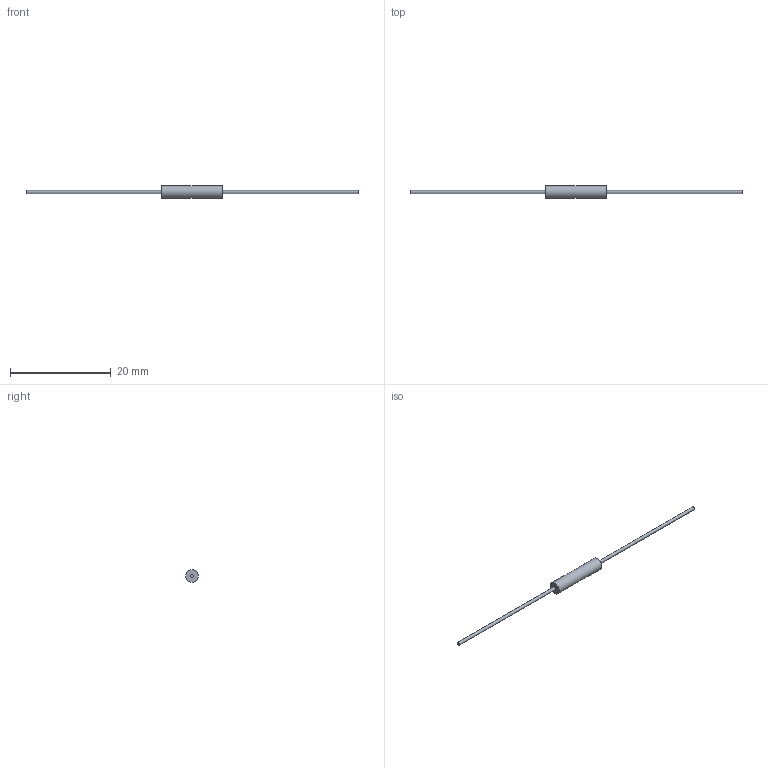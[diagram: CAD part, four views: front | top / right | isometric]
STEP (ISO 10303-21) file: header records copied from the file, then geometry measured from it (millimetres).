
FILE_DESCRIPTION(/* description */ (''),/* implementation_level */ '2;1');
FILE_NAME(/* name */ 'P31_HV_D2,5x12.stp',/* time_stamp */ '2020-07-08T08:45:16+02:00',/* author */ (''),/* organization */ (''),/* preprocessor_version */ 'ST-DEVELOPER v14',/* originating_system */ 'SIEMENS PLM Software NX 8.0',/* authorisation */ '');
FILE_SCHEMA (('AUTOMOTIVE_DESIGN { 1 0 10303 214 3 1 1 1 }'));
Length unit declared in the file: millimetre
Products named in the file (1): P31_HV_D2,5x12-body
Bounding box: 66 x 2.5 x 2.5 mm (x, y, z)
Volume: 74.2 mm3; surface area: 207 mm2
Topology: 3 solids, 3 shells, 9 faces, 9 edges, 6 vertices
Faces by surface type: plane 6, cylinder 3
Full cylindrical faces by diameter (mm): 0.6 x2, 2.5 x1
Entity records: 263 total; most frequent: DIRECTION 32, CARTESIAN_POINT 26, PROPERTY_DEFINITION 17, AXIS2_PLACEMENT_3D 16, PROPERTY_DEFINITION_REPRESENTATION 14, REPRESENTATION 14, EDGE_LOOP 12, ORIENTED_EDGE 12
